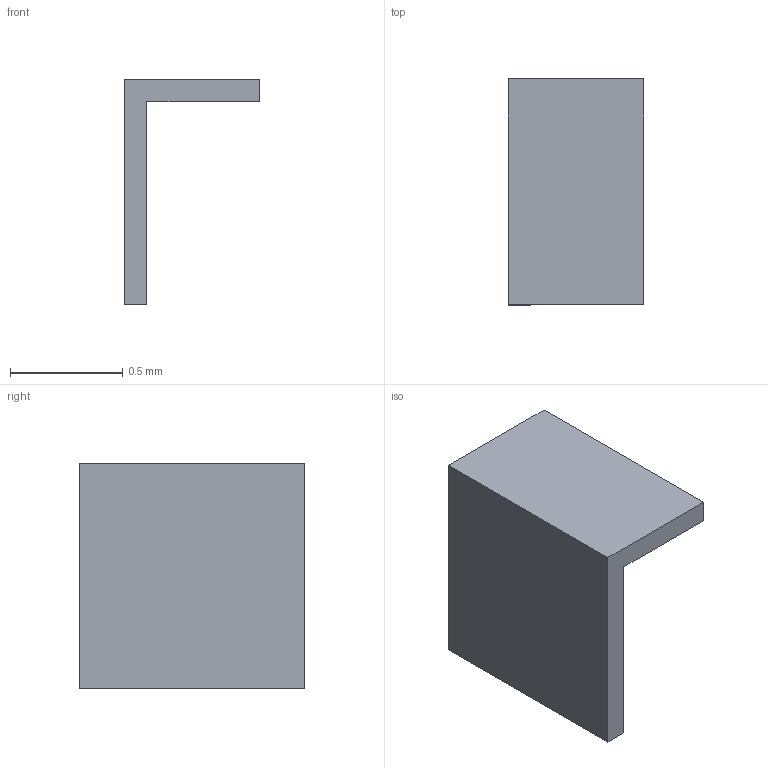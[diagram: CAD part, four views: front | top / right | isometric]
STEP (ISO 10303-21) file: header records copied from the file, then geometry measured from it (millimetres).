
FILE_DESCRIPTION(/* description */ ('STEP AP242 Edition 2','CAx-IF Rec.Pracs.---Representation and Presentation of Product Manufacturing Information (PMI)---4.0---2014-10-13','CAx-IF Rec.Pracs.---3D Tessellated Geometry---0.4---2014-09-14','2;1','CAx-IF Rec.Pracs.---User Defined Attributes---1.5---2016-08-15'),/* implementation_level */ '2;1');
FILE_NAME(/* name */ 'Drone Layout - Surface 267',/* time_stamp */ '2026-10-04T22:22:54Z',/* author */ (''),/* organization */ (''),/* preprocessor_version */ 'ST-DEVELOPER v20',/* originating_system */ 'ONSHAPE BY PTC INC, 1.221',/* authorisation */ ' ');
FILE_SCHEMA (('AP242_MANAGED_MODEL_BASED_3D_ENGINEERING_MIM_LF { 1 0 10303 442 3 1 4 }'));
Length unit declared in the file: metre
Products named in the file (1): Corps001
Bounding box: 0.6 x 1 x 1 mm (x, y, z)
Volume: 0.1 mm3; surface area: 3.5 mm2
Topology: 1 solids, 1 shells, 8 faces, 18 edges, 12 vertices
Faces by surface type: plane 8
Entity records: 235 total; most frequent: CARTESIAN_POINT 39, ORIENTED_EDGE 36, DIRECTION 36, EDGE_CURVE 18, LINE 18, VECTOR 18, VERTEX_POINT 12, AXIS2_PLACEMENT_3D 9
